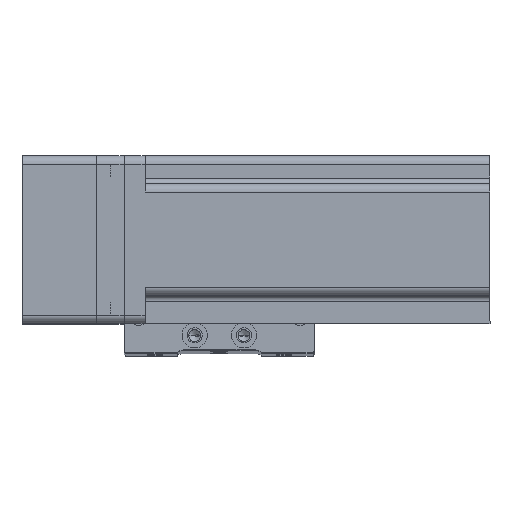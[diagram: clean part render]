
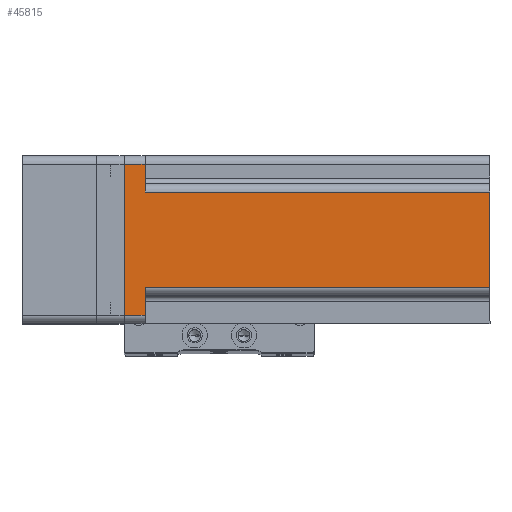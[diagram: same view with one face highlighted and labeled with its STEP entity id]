
A CAD part, top view. The second image highlights one B-rep face of the part: STEP entity #45815.
In plain terms, the highlighted planar face has unit normal (0, 0, 1) as drawn and (0, 1, 0) by its records, which use the part's own axes.
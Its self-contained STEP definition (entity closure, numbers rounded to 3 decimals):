
#1284 = DIRECTION ( 'NONE',  ( 0., -1., 0. ) ) ;
#1571 = DIRECTION ( 'NONE',  ( -1., 0., 0. ) ) ;
#1599 = EDGE_CURVE ( 'NONE', #32271, #2134, #9984, .T. ) ;
#1601 = VECTOR ( 'NONE', #20532, 1000. ) ;
#1991 = LINE ( 'NONE', #15788, #31276 ) ;
#2134 = VERTEX_POINT ( 'NONE', #45637 ) ;
#2170 = CARTESIAN_POINT ( 'NONE',  ( 27., 30., 7.5 ) ) ;
#4906 = ORIENTED_EDGE ( 'NONE', *, *, #1599, .T. ) ;
#4949 = VECTOR ( 'NONE', #9000, 1000. ) ;
#5467 = CARTESIAN_POINT ( 'NONE',  ( -27., 30., 130.7 ) ) ;
#6518 = EDGE_CURVE ( 'NONE', #39684, #44012, #20380, .T. ) ;
#6574 = CARTESIAN_POINT ( 'NONE',  ( 17., 30., 130.7 ) ) ;
#7366 = AXIS2_PLACEMENT_3D ( 'NONE', #22433, #1284, #25970 ) ;
#7572 = CARTESIAN_POINT ( 'NONE',  ( -27., 30., 7.5 ) ) ;
#8267 = PLANE ( 'NONE',  #7366 ) ;
#9000 = DIRECTION ( 'NONE',  ( 0., 0., 1. ) ) ;
#9044 = ORIENTED_EDGE ( 'NONE', *, *, #44318, .F. ) ;
#9976 = DIRECTION ( 'NONE',  ( 0., 0., -1. ) ) ;
#9984 = LINE ( 'NONE', #20998, #18230 ) ;
#10437 = VECTOR ( 'NONE', #9976, 1000. ) ;
#11404 = EDGE_CURVE ( 'NONE', #2134, #39684, #22600, .T. ) ;
#12182 = CARTESIAN_POINT ( 'NONE',  ( -20., 30., 7.5 ) ) ;
#12815 = ORIENTED_EDGE ( 'NONE', *, *, #6518, .T. ) ;
#14136 = CARTESIAN_POINT ( 'NONE',  ( -17., 30., 7.5 ) ) ;
#15379 = CARTESIAN_POINT ( 'NONE',  ( -17., 30., 130.7 ) ) ;
#15490 = DIRECTION ( 'NONE',  ( -1., 0., 0. ) ) ;
#15513 = ORIENTED_EDGE ( 'NONE', *, *, #21544, .F. ) ;
#15788 = CARTESIAN_POINT ( 'NONE',  ( 20., 30., 7.5 ) ) ;
#17404 = EDGE_CURVE ( 'NONE', #42261, #43162, #28052, .T. ) ;
#18230 = VECTOR ( 'NONE', #28104, 1000. ) ;
#18975 = CARTESIAN_POINT ( 'NONE',  ( 17., 30., 7.5 ) ) ;
#20380 = LINE ( 'NONE', #12182, #1601 ) ;
#20532 = DIRECTION ( 'NONE',  ( 1., 0., 0. ) ) ;
#20998 = CARTESIAN_POINT ( 'NONE',  ( 30., 30., 0. ) ) ;
#21158 = ORIENTED_EDGE ( 'NONE', *, *, #11404, .T. ) ;
#21544 = EDGE_CURVE ( 'NONE', #42261, #37301, #38782, .T. ) ;
#21636 = FACE_OUTER_BOUND ( 'NONE', #32454, .T. ) ;
#22433 = CARTESIAN_POINT ( 'NONE',  ( 30., 30., 130.7 ) ) ;
#22600 = LINE ( 'NONE', #5467, #4949 ) ;
#25198 = VECTOR ( 'NONE', #25995, 1000. ) ;
#25970 = DIRECTION ( 'NONE',  ( 1., 0., 0. ) ) ;
#25995 = DIRECTION ( 'NONE',  ( 0., 0., 1. ) ) ;
#27857 = EDGE_CURVE ( 'NONE', #41552, #32271, #39336, .T. ) ;
#28052 = LINE ( 'NONE', #6574, #10437 ) ;
#28104 = DIRECTION ( 'NONE',  ( -1., 0., 0. ) ) ;
#29951 = VECTOR ( 'NONE', #37222, 1000. ) ;
#30973 = CARTESIAN_POINT ( 'NONE',  ( -17., 30., 130.7 ) ) ;
#31276 = VECTOR ( 'NONE', #1571, 1000. ) ;
#32271 = VERTEX_POINT ( 'NONE', #36942 ) ;
#32454 = EDGE_LOOP ( 'NONE', ( #12815, #32807, #15513, #42597, #9044, #43211, #4906, #21158 ) ) ;
#32807 = ORIENTED_EDGE ( 'NONE', *, *, #35827, .T. ) ;
#34207 = CARTESIAN_POINT ( 'NONE',  ( 17., 30., 130.7 ) ) ;
#34576 = LINE ( 'NONE', #15379, #25198 ) ;
#35827 = EDGE_CURVE ( 'NONE', #44012, #37301, #34576, .T. ) ;
#36605 = CARTESIAN_POINT ( 'NONE',  ( 30., 30., 130.7 ) ) ;
#36942 = CARTESIAN_POINT ( 'NONE',  ( 27., 30., 0. ) ) ;
#37074 = CARTESIAN_POINT ( 'NONE',  ( 27., 30., 130.7 ) ) ;
#37222 = DIRECTION ( 'NONE',  ( 0., 0., -1. ) ) ;
#37301 = VERTEX_POINT ( 'NONE', #30973 ) ;
#38782 = LINE ( 'NONE', #36605, #39889 ) ;
#39336 = LINE ( 'NONE', #37074, #29951 ) ;
#39684 = VERTEX_POINT ( 'NONE', #7572 ) ;
#39889 = VECTOR ( 'NONE', #15490, 1000. ) ;
#41552 = VERTEX_POINT ( 'NONE', #2170 ) ;
#42261 = VERTEX_POINT ( 'NONE', #34207 ) ;
#42597 = ORIENTED_EDGE ( 'NONE', *, *, #17404, .T. ) ;
#43162 = VERTEX_POINT ( 'NONE', #18975 ) ;
#43211 = ORIENTED_EDGE ( 'NONE', *, *, #27857, .T. ) ;
#44012 = VERTEX_POINT ( 'NONE', #14136 ) ;
#44318 = EDGE_CURVE ( 'NONE', #41552, #43162, #1991, .T. ) ;
#45637 = CARTESIAN_POINT ( 'NONE',  ( -27., 30., 0. ) ) ;
#45815 = ADVANCED_FACE ( 'NONE', ( #21636 ), #8267, .F. ) ;
